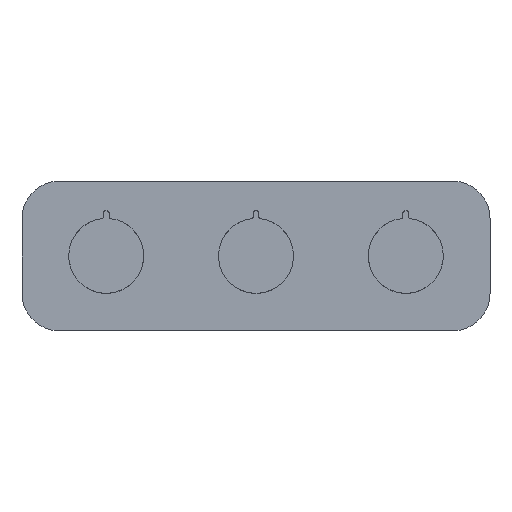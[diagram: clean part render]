
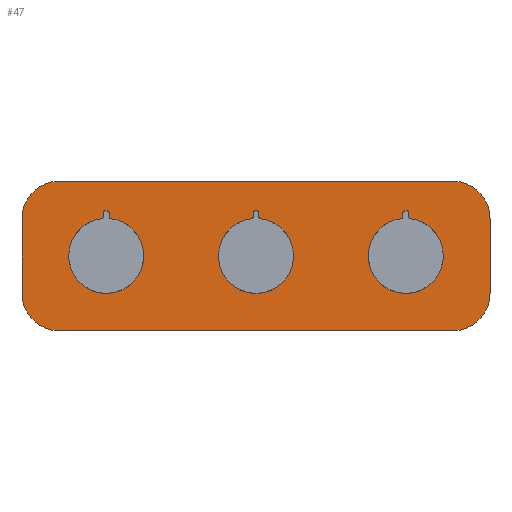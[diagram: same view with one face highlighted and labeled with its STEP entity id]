
A CAD part, top view. The second image highlights one B-rep face of the part: STEP entity #47.
In plain terms, the highlighted planar face has unit normal (0, 0, 1).
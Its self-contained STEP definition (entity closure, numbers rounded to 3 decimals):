
#47 = ADVANCED_FACE('',(#48),#118,.T.);
#48 = FACE_BOUND('',#49,.T.);
#49 = EDGE_LOOP('',(#50,#60,#69,#77,#86,#94,#103,#111));
#50 = ORIENTED_EDGE('',*,*,#51,.T.);
#51 = EDGE_CURVE('',#52,#54,#56,.T.);
#52 = VERTEX_POINT('',#53);
#53 = CARTESIAN_POINT('',(-125.,20.,5.
    ));
#54 = VERTEX_POINT('',#55);
#55 = CARTESIAN_POINT('',(-125.,-20.,5.
    ));
#56 = LINE('',#57,#58);
#57 = CARTESIAN_POINT('',(-125.,20.,5.
    ));
#58 = VECTOR('',#59,1.);
#59 = DIRECTION('',(0.,-1.,0.));
#60 = ORIENTED_EDGE('',*,*,#61,.T.);
#61 = EDGE_CURVE('',#54,#62,#64,.T.);
#62 = VERTEX_POINT('',#63);
#63 = CARTESIAN_POINT('',(-105.,-40.,5.
    ));
#64 = CIRCLE('',#65,20.);
#65 = AXIS2_PLACEMENT_3D('',#66,#67,#68);
#66 = CARTESIAN_POINT('',(-105.,-20.,5.
    ));
#67 = DIRECTION('',(0.,0.,1.));
#68 = DIRECTION('',(0.,1.,0.));
#69 = ORIENTED_EDGE('',*,*,#70,.T.);
#70 = EDGE_CURVE('',#62,#71,#73,.T.);
#71 = VERTEX_POINT('',#72);
#72 = CARTESIAN_POINT('',(105.,-40.,5.
    ));
#73 = LINE('',#74,#75);
#74 = CARTESIAN_POINT('',(-105.,-40.,5.
    ));
#75 = VECTOR('',#76,1.);
#76 = DIRECTION('',(1.,0.,0.));
#77 = ORIENTED_EDGE('',*,*,#78,.T.);
#78 = EDGE_CURVE('',#71,#79,#81,.T.);
#79 = VERTEX_POINT('',#80);
#80 = CARTESIAN_POINT('',(125.,-20.,5.
    ));
#81 = CIRCLE('',#82,20.);
#82 = AXIS2_PLACEMENT_3D('',#83,#84,#85);
#83 = CARTESIAN_POINT('',(105.,-20.,5.
    ));
#84 = DIRECTION('',(0.,0.,1.));
#85 = DIRECTION('',(0.,1.,0.));
#86 = ORIENTED_EDGE('',*,*,#87,.T.);
#87 = EDGE_CURVE('',#79,#88,#90,.T.);
#88 = VERTEX_POINT('',#89);
#89 = CARTESIAN_POINT('',(125.,20.,5.
    ));
#90 = LINE('',#91,#92);
#91 = CARTESIAN_POINT('',(125.,-20.,5.
    ));
#92 = VECTOR('',#93,1.);
#93 = DIRECTION('',(0.,1.,0.));
#94 = ORIENTED_EDGE('',*,*,#95,.T.);
#95 = EDGE_CURVE('',#88,#96,#98,.T.);
#96 = VERTEX_POINT('',#97);
#97 = CARTESIAN_POINT('',(105.,40.,5.
    ));
#98 = CIRCLE('',#99,20.);
#99 = AXIS2_PLACEMENT_3D('',#100,#101,#102);
#100 = CARTESIAN_POINT('',(105.,20.,
    5.));
#101 = DIRECTION('',(0.,0.,1.));
#102 = DIRECTION('',(0.,1.,0.));
#103 = ORIENTED_EDGE('',*,*,#104,.T.);
#104 = EDGE_CURVE('',#96,#105,#107,.T.);
#105 = VERTEX_POINT('',#106);
#106 = CARTESIAN_POINT('',(-105.,40.,
    5.));
#107 = LINE('',#108,#109);
#108 = CARTESIAN_POINT('',(105.,40.,
    5.));
#109 = VECTOR('',#110,1.);
#110 = DIRECTION('',(-1.,0.,0.));
#111 = ORIENTED_EDGE('',*,*,#112,.T.);
#112 = EDGE_CURVE('',#105,#52,#113,.T.);
#113 = CIRCLE('',#114,20.);
#114 = AXIS2_PLACEMENT_3D('',#115,#116,#117);
#115 = CARTESIAN_POINT('',(-105.,20.,
    5.));
#116 = DIRECTION('',(0.,0.,1.));
#117 = DIRECTION('',(0.,1.,0.));
#118 = PLANE('',#119);
#119 = AXIS2_PLACEMENT_3D('',#120,#121,#122);
#120 = CARTESIAN_POINT('',(-125.,-20.,
    5.));
#121 = DIRECTION('',(0.,0.,1.));
#122 = DIRECTION('',(0.,-1.,0.));
